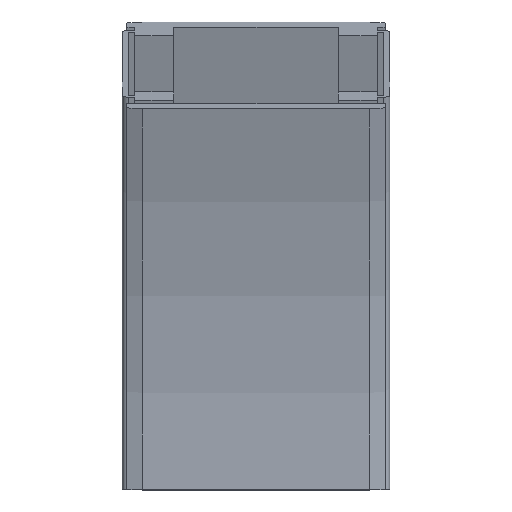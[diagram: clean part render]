
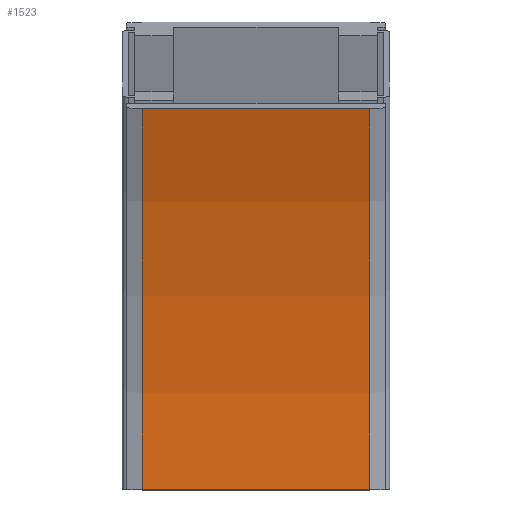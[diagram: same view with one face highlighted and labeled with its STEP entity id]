
A CAD part, top view. The second image highlights one B-rep face of the part: STEP entity #1523.
In plain terms, the highlighted cylindrical face has radius 357.5 mm (diameter 715 mm), a partial arc.
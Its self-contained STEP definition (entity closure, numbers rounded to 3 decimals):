
#79=CYLINDRICAL_SURFACE('',#1637,357.5);
#110=FACE_OUTER_BOUND('',#197,.T.);
#197=EDGE_LOOP('',(#1004,#1005,#1006,#1007));
#289=CIRCLE('',#1636,357.5);
#290=CIRCLE('',#1638,357.5);
#358=LINE('',#2198,#484);
#359=LINE('',#2200,#485);
#484=VECTOR('',#1790,10.);
#485=VECTOR('',#1791,10.);
#610=VERTEX_POINT('',#2191);
#611=VERTEX_POINT('',#2193);
#612=VERTEX_POINT('',#2197);
#613=VERTEX_POINT('',#2199);
#768=EDGE_CURVE('',#610,#611,#289,.T.);
#769=EDGE_CURVE('',#612,#610,#358,.T.);
#770=EDGE_CURVE('',#613,#611,#359,.T.);
#771=EDGE_CURVE('',#612,#613,#290,.T.);
#1004=ORIENTED_EDGE('',*,*,#769,.T.);
#1005=ORIENTED_EDGE('',*,*,#768,.T.);
#1006=ORIENTED_EDGE('',*,*,#770,.F.);
#1007=ORIENTED_EDGE('',*,*,#771,.F.);
#1523=ADVANCED_FACE('',(#110),#79,.F.);
#1636=AXIS2_PLACEMENT_3D('',#2195,#1786,#1787);
#1637=AXIS2_PLACEMENT_3D('',#2196,#1788,#1789);
#1638=AXIS2_PLACEMENT_3D('',#2201,#1792,#1793);
#1786=DIRECTION('center_axis',(1.,0.,0.));
#1787=DIRECTION('ref_axis',(0.,0.,-1.));
#1788=DIRECTION('center_axis',(1.,0.,0.));
#1789=DIRECTION('ref_axis',(0.,0.,-1.));
#1790=DIRECTION('',(1.,0.,0.));
#1791=DIRECTION('',(1.,0.,0.));
#1792=DIRECTION('center_axis',(1.,0.,0.));
#1793=DIRECTION('ref_axis',(0.,0.,-1.));
#2191=CARTESIAN_POINT('',(36.5,0.,42.5));
#2193=CARTESIAN_POINT('',(36.5,122.272,64.06));
#2195=CARTESIAN_POINT('Origin',(36.5,0.,
400.));
#2196=CARTESIAN_POINT('Origin',(0.,0.,400.));
#2197=CARTESIAN_POINT('',(-36.5,0.,42.5));
#2198=CARTESIAN_POINT('',(-36.5,0.,42.5));
#2199=CARTESIAN_POINT('',(-36.5,122.272,64.06));
#2200=CARTESIAN_POINT('',(-36.5,122.272,64.06));
#2201=CARTESIAN_POINT('Origin',(-36.5,0.,400.));
